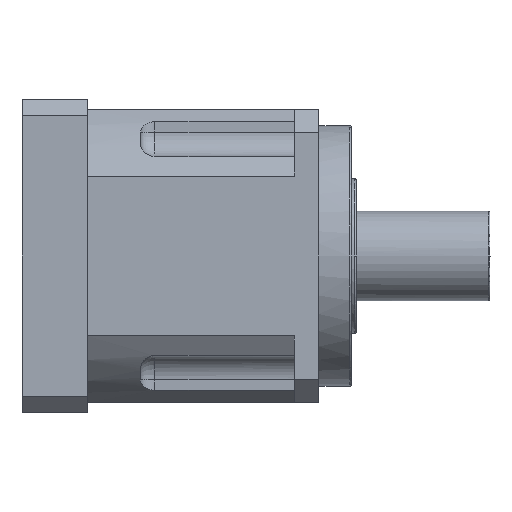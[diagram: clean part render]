
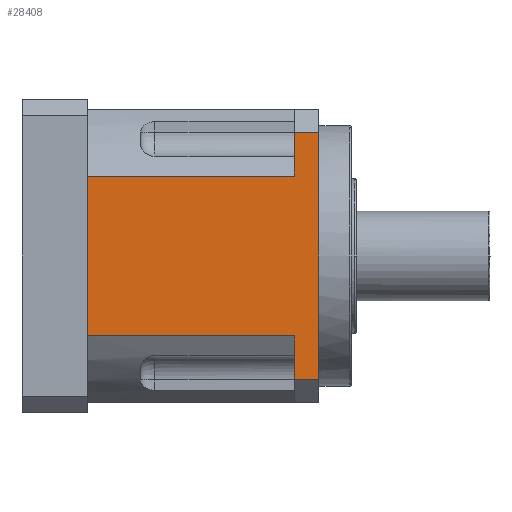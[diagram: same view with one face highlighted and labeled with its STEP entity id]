
A CAD part, front view. The second image highlights one B-rep face of the part: STEP entity #28408.
In plain terms, the highlighted planar face has unit normal (0, -1, 0).
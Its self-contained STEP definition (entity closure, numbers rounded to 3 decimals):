
#397 = CARTESIAN_POINT ( 'NONE',  ( -118.029, -90., 49.025 ) ) ;
#434 = ORIENTED_EDGE ( 'NONE', *, *, #1497, .T. ) ;
#536 = PLANE ( 'NONE',  #856 ) ;
#856 = AXIS2_PLACEMENT_3D ( 'NONE', #11083, #14561, #39077 ) ;
#869 = CARTESIAN_POINT ( 'NONE',  ( -142., -90., 16.341 ) ) ;
#1497 = EDGE_CURVE ( 'NONE', #33091, #2319, #5143, .T. ) ;
#2319 = VERTEX_POINT ( 'NONE', #11248 ) ;
#2886 = ORIENTED_EDGE ( 'NONE', *, *, #35110, .F. ) ;
#3984 = CARTESIAN_POINT ( 'NONE',  ( 0., -90., -75.54 ) ) ;
#4062 = ORIENTED_EDGE ( 'NONE', *, *, #26040, .T. ) ;
#5143 = LINE ( 'NONE', #33606, #30894 ) ;
#5693 = DIRECTION ( 'NONE',  ( 0., 0., 1. ) ) ;
#7200 = CARTESIAN_POINT ( 'NONE',  ( -142., -90.007, -49.026 ) ) ;
#7789 = EDGE_CURVE ( 'NONE', #18593, #24886, #12932, .T. ) ;
#8212 = CARTESIAN_POINT ( 'NONE',  ( -15., -90.001, 49.05 ) ) ;
#9076 = VERTEX_POINT ( 'NONE', #13460 ) ;
#11076 = FACE_OUTER_BOUND ( 'NONE', #43847, .T. ) ;
#11083 = CARTESIAN_POINT ( 'NONE',  ( 0., -90., -75.54 ) ) ;
#11213 = CARTESIAN_POINT ( 'NONE',  ( -15., -90., -75.54 ) ) ;
#11248 = CARTESIAN_POINT ( 'NONE',  ( 0., -90., 75.54 ) ) ;
#11423 = CARTESIAN_POINT ( 'NONE',  ( -142., -90.007, -49.026 ) ) ;
#11825 = CARTESIAN_POINT ( 'NONE',  ( -15., -90., 57.879 ) ) ;
#12236 = LINE ( 'NONE', #32571, #39084 ) ;
#12932 = B_SPLINE_CURVE_WITH_KNOTS ( 'NONE', 3,
 ( #8212, #17793, #397, #24853 ),
 .UNSPECIFIED., .F., .F.,
 ( 4, 4 ),
 ( 0., 1. ),
 .UNSPECIFIED. ) ;
#13460 = CARTESIAN_POINT ( 'NONE',  ( -15., -90., 75.54 ) ) ;
#14266 = ORIENTED_EDGE ( 'NONE', *, *, #7789, .T. ) ;
#14561 = DIRECTION ( 'NONE',  ( 0., -1., 0. ) ) ;
#15002 = EDGE_CURVE ( 'NONE', #9076, #2319, #12236, .T. ) ;
#16619 = CARTESIAN_POINT ( 'NONE',  ( -142., -90.007, 49.025 ) ) ;
#16703 = CARTESIAN_POINT ( 'NONE',  ( -15., -90.001, -57.879 ) ) ;
#17230 = EDGE_CURVE ( 'NONE', #17396, #23046, #30698, .T. ) ;
#17396 = VERTEX_POINT ( 'NONE', #11213 ) ;
#17425 = B_SPLINE_CURVE_WITH_KNOTS ( 'NONE', 3,
 ( #25349, #869, #32415, #11423 ),
 .UNSPECIFIED., .F., .F.,
 ( 4, 4 ),
 ( 0., 1. ),
 .UNSPECIFIED. ) ;
#17468 = CARTESIAN_POINT ( 'NONE',  ( -74.843, -90.006, -49.042 ) ) ;
#17793 = CARTESIAN_POINT ( 'NONE',  ( -75.696, -90., 49.033 ) ) ;
#18016 = CARTESIAN_POINT ( 'NONE',  ( -15., -90.001, -49.05 ) ) ;
#18049 = DIRECTION ( 'NONE',  ( -1., 0., 0. ) ) ;
#18593 = VERTEX_POINT ( 'NONE', #31524 ) ;
#23046 = VERTEX_POINT ( 'NONE', #18016 ) ;
#23874 = EDGE_CURVE ( 'NONE', #24886, #36269, #17425, .T. ) ;
#23942 = CARTESIAN_POINT ( 'NONE',  ( -142., -90.007, -49.026 ) ) ;
#24853 = CARTESIAN_POINT ( 'NONE',  ( -142., -90.007, 49.025 ) ) ;
#24886 = VERTEX_POINT ( 'NONE', #16619 ) ;
#25349 = CARTESIAN_POINT ( 'NONE',  ( -142., -90.007, 49.025 ) ) ;
#26040 = EDGE_CURVE ( 'NONE', #9076, #18593, #45013, .T. ) ;
#28235 = CARTESIAN_POINT ( 'NONE',  ( -117.176, -90.01, -49.034 ) ) ;
#28408 = ADVANCED_FACE ( 'NONE', ( #11076 ), #536, .T. ) ;
#28513 = ORIENTED_EDGE ( 'NONE', *, *, #17230, .F. ) ;
#28692 = ORIENTED_EDGE ( 'NONE', *, *, #15002, .F. ) ;
#29034 = DIRECTION ( 'NONE',  ( 1., 0., 0. ) ) ;
#29291 = CARTESIAN_POINT ( 'NONE',  ( -15., -90., 75.54 ) ) ;
#30376 = ORIENTED_EDGE ( 'NONE', *, *, #42804, .F. ) ;
#30698 = B_SPLINE_CURVE_WITH_KNOTS ( 'NONE', 3,
 ( #34190, #37702, #16703, #41202 ),
 .UNSPECIFIED., .F., .F.,
 ( 4, 4 ),
 ( 0., 1. ),
 .UNSPECIFIED. ) ;
#30894 = VECTOR ( 'NONE', #5693, 1000. ) ;
#31524 = CARTESIAN_POINT ( 'NONE',  ( -15., -90.001, 49.05 ) ) ;
#32415 = CARTESIAN_POINT ( 'NONE',  ( -142., -90., -16.341 ) ) ;
#32571 = CARTESIAN_POINT ( 'NONE',  ( 0., -90., 75.54 ) ) ;
#32819 = CARTESIAN_POINT ( 'NONE',  ( -15., -90., 66.71 ) ) ;
#33091 = VERTEX_POINT ( 'NONE', #36943 ) ;
#33578 = B_SPLINE_CURVE_WITH_KNOTS ( 'NONE', 3,
 ( #38616, #17468, #28235, #7200 ),
 .UNSPECIFIED., .F., .F.,
 ( 4, 4 ),
 ( 0., 1. ),
 .UNSPECIFIED. ) ;
#33606 = CARTESIAN_POINT ( 'NONE',  ( 0., -90., 0. ) ) ;
#33964 = VECTOR ( 'NONE', #18049, 1000. ) ;
#34190 = CARTESIAN_POINT ( 'NONE',  ( -15., -90., -75.54 ) ) ;
#35110 = EDGE_CURVE ( 'NONE', #23046, #36269, #33578, .T. ) ;
#36005 = ORIENTED_EDGE ( 'NONE', *, *, #23874, .T. ) ;
#36269 = VERTEX_POINT ( 'NONE', #23942 ) ;
#36338 = CARTESIAN_POINT ( 'NONE',  ( -15., -90.001, 49.05 ) ) ;
#36943 = CARTESIAN_POINT ( 'NONE',  ( 0., -90., -75.54 ) ) ;
#37702 = CARTESIAN_POINT ( 'NONE',  ( -15., -90., -66.71 ) ) ;
#38616 = CARTESIAN_POINT ( 'NONE',  ( -15., -90.001, -49.05 ) ) ;
#39077 = DIRECTION ( 'NONE',  ( 0., 0., -1. ) ) ;
#39084 = VECTOR ( 'NONE', #29034, 1000. ) ;
#41202 = CARTESIAN_POINT ( 'NONE',  ( -15., -90.001, -49.05 ) ) ;
#42804 = EDGE_CURVE ( 'NONE', #33091, #17396, #43244, .T. ) ;
#43244 = LINE ( 'NONE', #3984, #33964 ) ;
#43847 = EDGE_LOOP ( 'NONE', ( #30376, #434, #28692, #4062, #14266, #36005, #2886, #28513 ) ) ;
#45013 = B_SPLINE_CURVE_WITH_KNOTS ( 'NONE', 3,
 ( #29291, #32819, #11825, #36338 ),
 .UNSPECIFIED., .F., .F.,
 ( 4, 4 ),
 ( 0., 1. ),
 .UNSPECIFIED. ) ;
